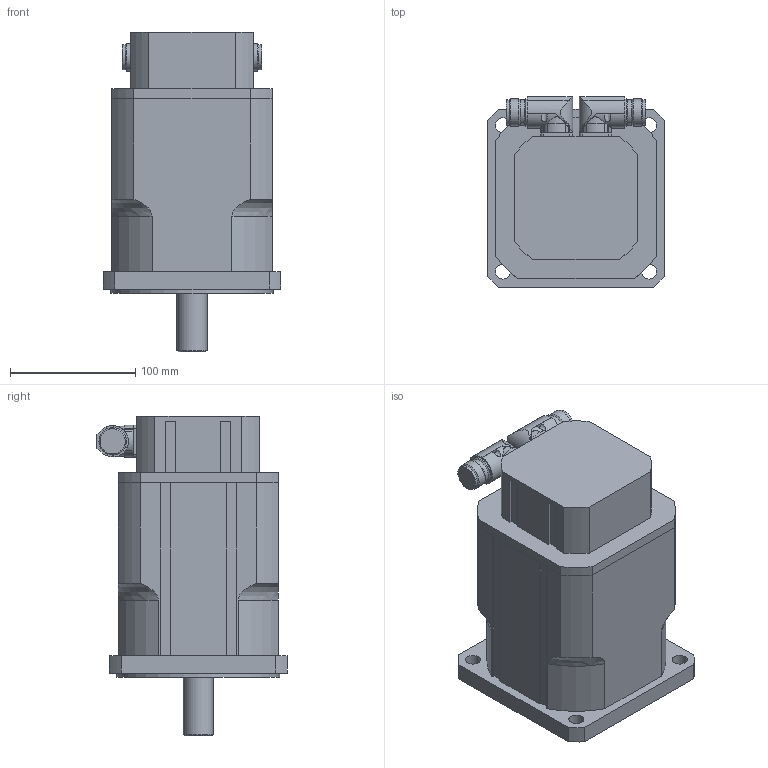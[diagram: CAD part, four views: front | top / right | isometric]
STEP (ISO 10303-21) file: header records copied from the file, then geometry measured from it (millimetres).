
FILE_DESCRIPTION(/* description */ ('Alibre Inc.'),/* implementation_level */ '2;1');
FILE_NAME(/* name */ 'export2',/* time_stamp */ '2013-07-26T12:52:58+02:00',/* author */ (''),/* organization */ (''),/* preprocessor_version */ 'ST-DEVELOPER v12',/* originating_system */ 'Alibre',/* authorisation */ '');
FILE_SCHEMA (('CONFIG_CONTROL_DESIGN'));
Length unit declared in the file: millimetre
Products named in the file (5): ID_1
Bounding box: 142 x 152 x 255 mm (x, y, z)
Volume: 3013170.4 mm3; surface area: 210135.4 mm2
Topology: 5 solids, 5 shells, 233 faces, 632 edges, 419 vertices
Faces by surface type: cylinder 115, plane 102, cone 10, torus 4, bspline 2
Full cylindrical faces by diameter (mm): 2.7 x8, 6.647 x1, 12 x4, 20 x8, 22 x4, 24 x1, 130 x1
Entity records: 6023 total; most frequent: CARTESIAN_POINT 1439, ORIENTED_EDGE 828, DIRECTION 802, EDGE_CURVE 414, AXIS2_PLACEMENT_3D 326, VERTEX_POINT 290, VECTOR 231, LINE 231
